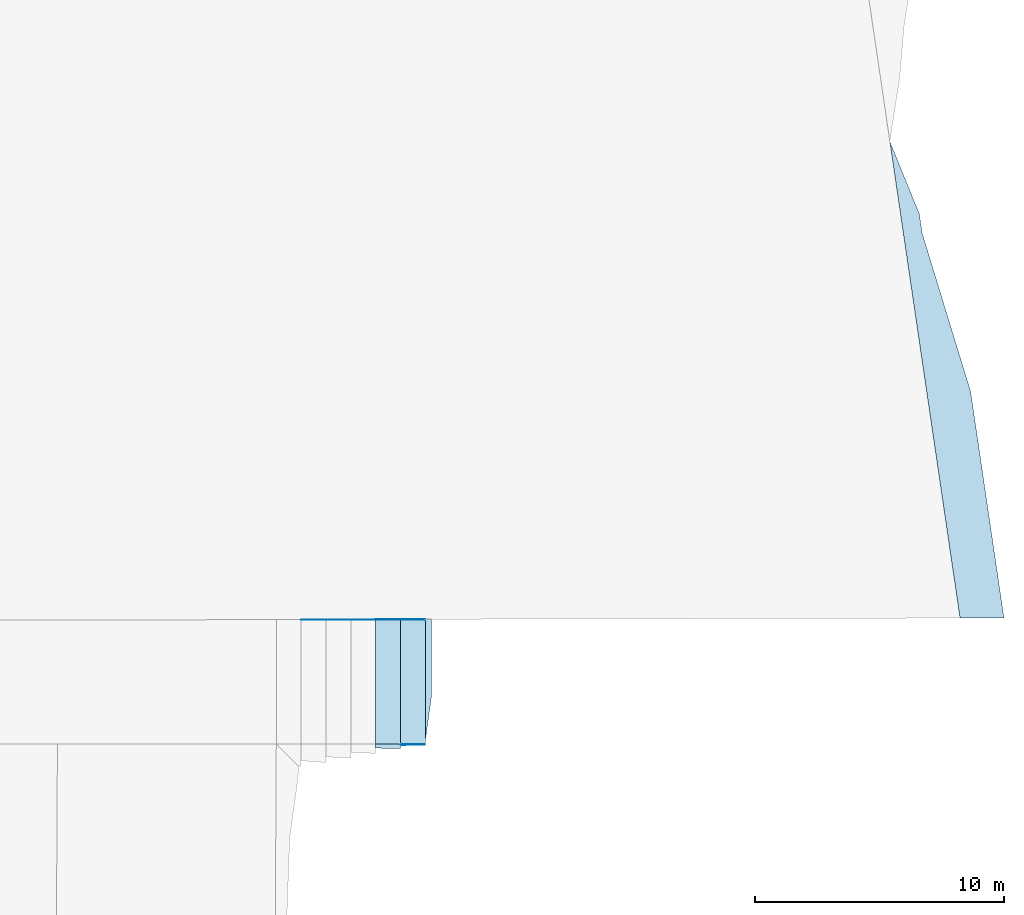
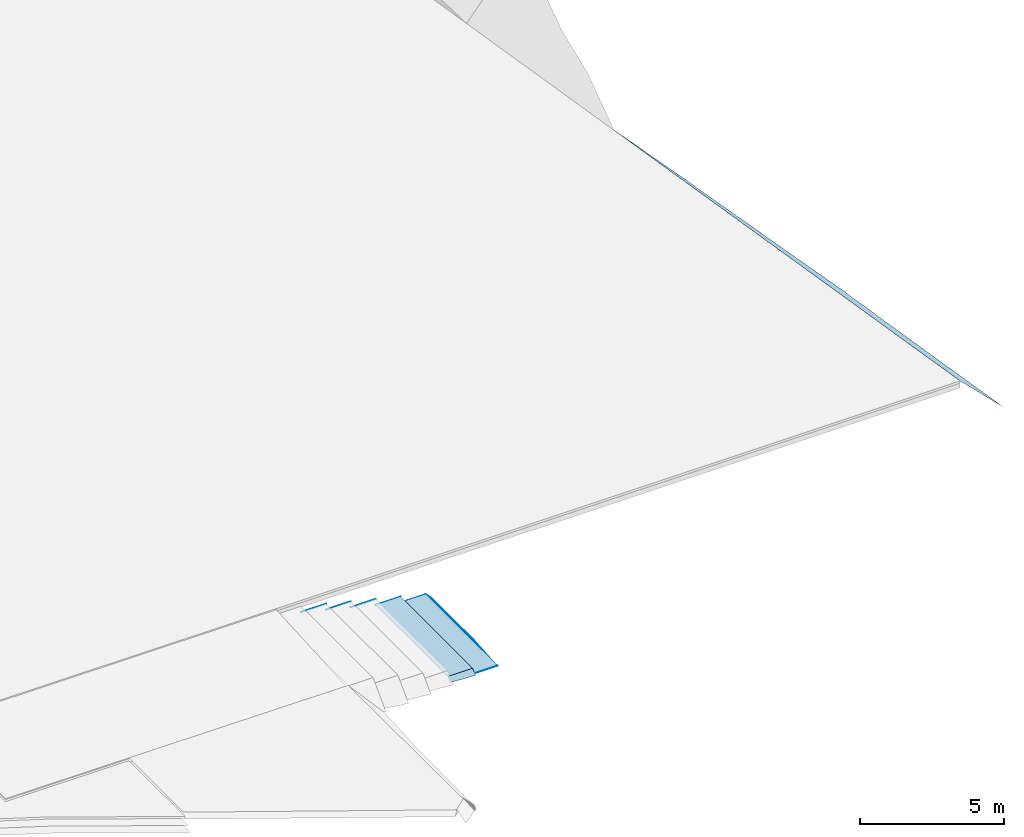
# One storey, part 3 of 14: 11 slabs.
"""IFC2X3 building model written with IfcOpenShell, lengths in metres."""

from ifc_helpers import new_model, si_unit, origin, origin_with_axes, place, context, subcontext, project, spatial, faceted_brep, element, save


model = new_model("IFC2X3")

# Units and contexts
context_of_model = context(None, 3, world=origin_with_axes())
sub_context = subcontext(context_of_model, None, None, "MODEL_VIEW")
ifc_project = project(units=[si_unit("LENGTHUNIT", "METRE"), si_unit("AREAUNIT", "SQUARE_METRE"), si_unit("VOLUMEUNIT", "CUBIC_METRE"), si_unit("PLANEANGLEUNIT", "RADIAN"), si_unit("MASSUNIT", "GRAM", prefix="KILO")])

# Site, building, storey
site_placement = place(None, origin_with_axes())
site = spatial("IfcSite", under=ifc_project, at=site_placement, Name="Site.1", CompositionType="ELEMENT")
building_placement = place(site_placement, origin())
building = spatial("IfcBuilding", under=site, at=building_placement, Name="Building.1", CompositionType="ELEMENT")
storey_placement = place(building_placement, origin())
storey = spatial("IfcBuildingStorey", under=building, at=storey_placement, Name="VRD", CompositionType="ELEMENT")

# Slabs
slab_1_placement = place(storey_placement, origin())
element("IfcSlab", 1, at=slab_1_placement, inside=storey, Name="PJ FINI n°9", PredefinedType="USERDEFINED", context=sub_context, shape_type="Brep", body=[
    faceted_brep([(51.881781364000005, -7.697746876, -1.291811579), (51.881781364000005, -7.84429903, -1.438363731), (51.468693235, -7.838914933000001, -1.432979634), (51.881781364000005, -7.655936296, -1.250000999), (50.881781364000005, -7.655936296, -1.250000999), (50.881781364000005, -7.815866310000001, -1.409931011)], [[[0, 1, 2]], [[3, 2, 4]], [[0, 2, 3]], [[2, 5, 4]]]),
])
slab_2_placement = place(storey_placement, origin())
element("IfcSlab", 2, at=slab_2_placement, inside=storey, Name="PJ FINI n°17", PredefinedType="USERDEFINED", context=sub_context, shape_type="Brep", body=[
    faceted_brep([(74.83319378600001, 6.355759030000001, -1.75), (73.15187716, 11.934058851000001, -0.899166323), (74.809550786, 6.516341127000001, -1.75), (74.381633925, -2.591314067, -1e-06), (72.86098712, 12.885717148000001, -0.75), (74.83644999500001, 6.333643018, -1.75), (75.85325558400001, -0.572450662, -1.75), (76.149887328, -2.587158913, -1.75), (71.559022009, 16.579739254, -2.701e-06), (72.746027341, 13.666518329, -0.75), (72.79901514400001, 13.306627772, -0.75), (75.056804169, 4.837008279, -1.75)], [[[0, 1, 2]], [[3, 4, 1]], [[1, 0, 5]], [[6, 7, 3]], [[8, 9, 10]], [[3, 5, 11]], [[3, 11, 6]], [[1, 5, 3]], [[8, 10, 4]], [[8, 4, 3]]]),
])
slab_3_placement = place(storey_placement, origin())
element("IfcSlab", 3, at=slab_3_placement, inside=storey, Name="PJ FINI n°42", PredefinedType="USERDEFINED", context=sub_context, shape_type="Brep", body=[
    faceted_brep([(52.881781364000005, -2.655934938, -1.500000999), (53.131780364, -5.677508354, -1.75), (52.881781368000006, -7.498072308, -1.500000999), (53.131780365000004, -2.655934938, -1.75)], [[[0, 1, 2]], [[1, 0, 3]]]),
])
slab_4_placement = place(storey_placement, origin())
element("IfcSlab", 4, at=slab_4_placement, inside=storey, Name="PJ FINI n°87", PredefinedType="USERDEFINED", context=sub_context, shape_type="Brep", body=[
    faceted_brep([(51.881781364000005, -7.655936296, -1.249999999), (50.881781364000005, -7.655936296, -1.249999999), (51.881781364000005, -2.655934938, -1.249999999), (50.881781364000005, -2.655934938, -1.249999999)], [[[0, 1, 2]], [[1, 3, 2]]]),
])
slab_5_placement = place(storey_placement, origin())
element("IfcSlab", 5, at=slab_5_placement, inside=storey, Name="PJ FINI n°88", PredefinedType="USERDEFINED", context=sub_context, shape_type="Brep", body=[
    faceted_brep([(52.881781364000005, -2.655934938, -1.499999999), (52.881781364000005, -7.655936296, -1.499999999), (51.881781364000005, -7.655936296, -1.499999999), (51.881781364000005, -2.655934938, -1.499999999)], [[[0, 1, 2]], [[0, 2, 3]]]),
])
slab_6_placement = place(storey_placement, origin())
element("IfcSlab", 6, at=slab_6_placement, inside=storey, Name="PJ FINI n°46", PredefinedType="USERDEFINED", context=sub_context, shape_type="Brep", body=[
    faceted_brep([(51.881781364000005, -2.655934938, -1.500000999), (51.881781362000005, -2.64418563, -1.511750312), (52.881781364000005, -2.655934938, -1.500000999), (52.881781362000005, -2.641835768, -1.514100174)], [[[0, 1, 2]], [[3, 2, 1]]]),
])
slab_7_placement = place(storey_placement, origin())
element("IfcSlab", 7, at=slab_7_placement, inside=storey, Name="PJ FINI n°48", PredefinedType="USERDEFINED", context=sub_context, shape_type="Brep", body=[
    faceted_brep([(50.881781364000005, -2.655934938, -1.250000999), (50.881781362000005, -2.646535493, -1.259400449), (51.881781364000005, -2.655934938, -1.250000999), (51.881781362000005, -2.64418563, -1.261750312)], [[[0, 1, 2]], [[3, 2, 1]]]),
])
slab_8_placement = place(storey_placement, origin())
element("IfcSlab", 8, at=slab_8_placement, inside=storey, Name="PJ FINI n°54", PredefinedType="USERDEFINED", context=sub_context, shape_type="Brep", body=[
    faceted_brep([(48.881781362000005, -2.651235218, -0.504700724), (48.881781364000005, -2.655934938, -0.500000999), (47.881781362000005, -2.65358508, -0.502350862), (47.881781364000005, -2.655934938, -0.500000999)], [[[0, 1, 2]], [[1, 3, 2]]]),
])
slab_9_placement = place(storey_placement, origin())
element("IfcSlab", 9, at=slab_9_placement, inside=storey, Name="PJ FINI n°89", PredefinedType="USERDEFINED", context=sub_context, shape_type="Brep", body=[
    faceted_brep([(52.881781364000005, -7.680634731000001, -1.475302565), (51.881781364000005, -7.697746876, -1.458190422), (51.881781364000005, -7.655936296, -1.500000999), (52.881781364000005, -7.655936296, -1.500000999)], [[[0, 1, 2]], [[3, 0, 2]]]),
])
slab_10_placement = place(storey_placement, origin())
element("IfcSlab", 10, at=slab_10_placement, inside=storey, Name="PJ FINI n°98", PredefinedType="USERDEFINED", context=sub_context, shape_type="Brep", body=[
    faceted_brep([(50.881781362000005, -2.646535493, -1.009400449), (50.881781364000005, -2.655934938, -1.000000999), (49.881781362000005, -2.648885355, -1.007050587), (49.881781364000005, -2.655934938, -1.000000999)], [[[0, 1, 2]], [[2, 1, 3]]]),
])
slab_11_placement = place(storey_placement, origin())
element("IfcSlab", 11, at=slab_11_placement, inside=storey, Name="PJ FINI n°99", PredefinedType="USERDEFINED", context=sub_context, shape_type="Brep", body=[
    faceted_brep([(49.881781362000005, -2.648885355, -0.757050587), (49.881781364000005, -2.655934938, -0.750000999), (48.881781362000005, -2.651235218, -0.754700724), (48.881781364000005, -2.655934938, -0.750000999)], [[[0, 1, 2]], [[2, 1, 3]]]),
])

save(model, "model.ifc")
